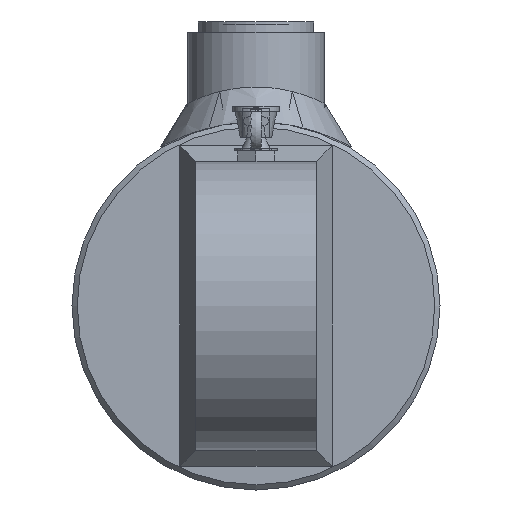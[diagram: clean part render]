
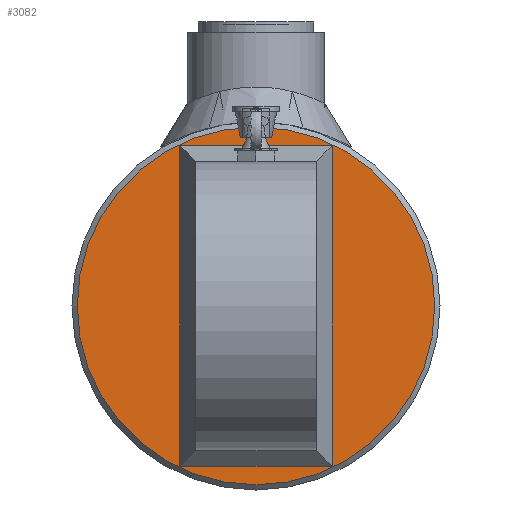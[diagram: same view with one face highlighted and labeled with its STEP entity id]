
A CAD part, left-side view. The second image highlights one B-rep face of the part: STEP entity #3082.
In plain terms, the highlighted planar face has unit normal (-1, 0, 0).
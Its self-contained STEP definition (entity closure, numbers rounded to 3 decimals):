
#3082 = ADVANCED_FACE( '', ( #6547 ), #6548, .T. );
#6547 = FACE_OUTER_BOUND( '', #8474, .T. );
#6548 = PLANE( '', #8475 );
#8474 = EDGE_LOOP( '', ( #9351 ) );
#8475 = AXIS2_PLACEMENT_3D( '', #9352, #9353, #9354 );
#9351 = ORIENTED_EDGE( '', *, *, #10498, .T. );
#9352 = CARTESIAN_POINT( '', ( -12., 0., 0. ) );
#9353 = DIRECTION( '', ( -1., 0., 0. ) );
#9354 = DIRECTION( '', ( 0., -1., 0. ) );
#10498 = EDGE_CURVE( '', #13386, #13386, #13387, .T. );
#13386 = VERTEX_POINT( '', #14385 );
#13387 = CIRCLE( '', #14386, 34. );
#14385 = CARTESIAN_POINT( '', ( -12., -34., 0. ) );
#14386 = AXIS2_PLACEMENT_3D( '', #14587, #14588, #14589 );
#14587 = CARTESIAN_POINT( '', ( -12., 0., 0. ) );
#14588 = DIRECTION( '', ( -1., 0., 0. ) );
#14589 = DIRECTION( '', ( 0., -1., 0. ) );
